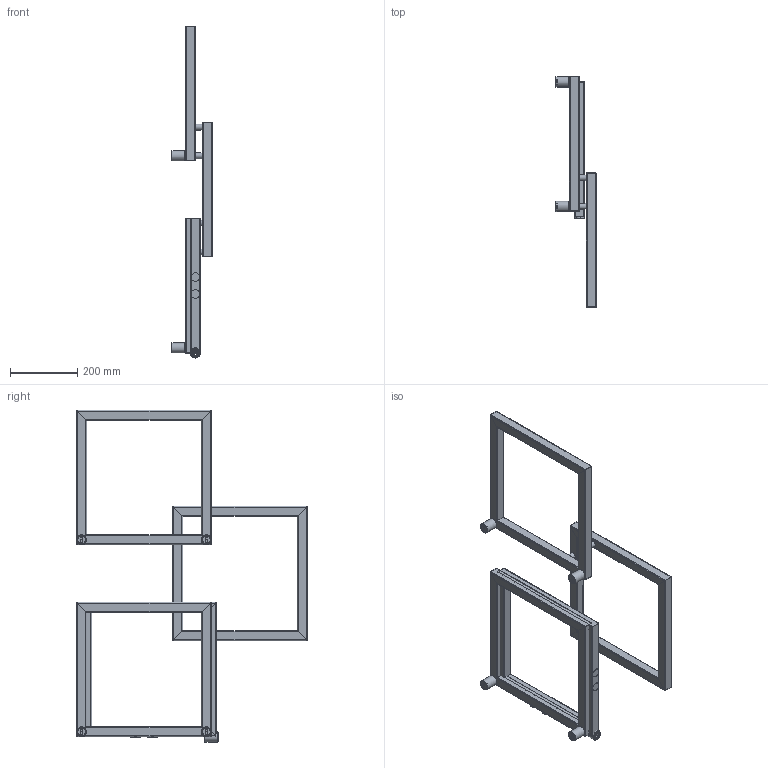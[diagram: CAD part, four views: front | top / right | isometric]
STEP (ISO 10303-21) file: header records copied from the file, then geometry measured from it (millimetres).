
FILE_DESCRIPTION( ( 'Unknown' ), '1' );
FILE_NAME( 'V:/DESIGN PROGRAM/LOCO/STP/LOCO 3 LEWY.stp', 'Unknown', ( 'Unknown' ), ( 'Unknown' ), 'PSStep 10.1', 'Unknown', ' ' );
FILE_SCHEMA( ( 'AUTOMOTIVE_DESIGN { 1 0 10303 214 1 1 1 1 }' ) );
Length unit declared in the file: millimetre
Products named in the file (16): Ramka 3; Ramka 2 LEWA; Mocowanie L40; Ramka 1 LEWY; Assem1; czêœæ 1; czêœæ 2; czêœæ 4; czêœæ 3; czêœæ 5; czêœæ 6; MOCOWANIE L40-01; MOCOWANIE FASOLKA; MOCOWANIE L40-03; ｳｹcznik ; Zaslepka fi 30 z gwintem 
Bounding box: 120 x 685 x 985 mm (x, y, z)
Volume: 1941367.4 mm3; surface area: 2537308 mm2
Topology: 56 solids, 56 shells, 781 faces, 2014 edges, 1340 vertices
Faces by surface type: plane 395, cylinder 350, cone 30, torus 6
Full cylindrical faces by diameter (mm): 4.917 x6, 12.5 x5, 15.5 x5, 16.3 x5, 16.5 x21, 17 x6, 17.2 x5, 18.631 x3, 20 x6, 22 x6, 22.7 x6, 23 x6, 25 x3, 25.25 x6, 29 x3, 30 x6
Entity records: 6497 total; most frequent: CARTESIAN_POINT 1011, DIRECTION 884, ORIENTED_EDGE 738, EDGE_CURVE 369, AXIS2_PLACEMENT_3D 338, VERTEX_POINT 261, EDGE_LOOP 224, LINE 208
